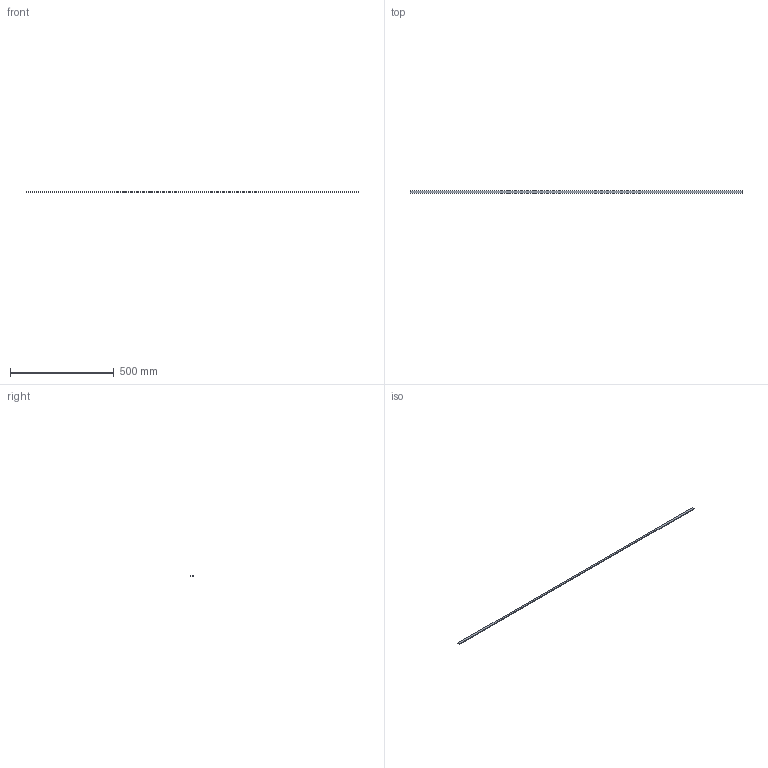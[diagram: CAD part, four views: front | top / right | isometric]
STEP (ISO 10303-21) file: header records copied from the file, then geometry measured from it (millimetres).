
FILE_DESCRIPTION(/* description */ (''),/* implementation_level */ '2;1');
FILE_NAME(/* name */ '9.electronics#9.4#la-lite',/* time_stamp */ '2014-12-01T20:18:51+01:00',/* author */ (''),/* organization */ (''),/* preprocessor_version */ 'ST-DEVELOPER v14',/* originating_system */ '',/* authorisation */ '');
FILE_SCHEMA (('AUTOMOTIVE_DESIGN'));
Length unit declared in the file: millimetre
Products named in the file (1): Document
Bounding box: 1598 x 10 x 4 mm (x, y, z)
Volume: 63920 mm3; surface area: 44824 mm2
Topology: 1 solids, 1 shells, 6 faces, 12 edges, 8 vertices
Faces by surface type: plane 6
Entity records: 298 total; most frequent: CARTESIAN_POINT 88, B_SPLINE_CURVE_WITH_KNOTS 36, ORIENTED_EDGE 24, PCURVE 24, DEFINITIONAL_REPRESENTATION 24, SURFACE_CURVE 12, EDGE_CURVE 12, DIRECTION 10
